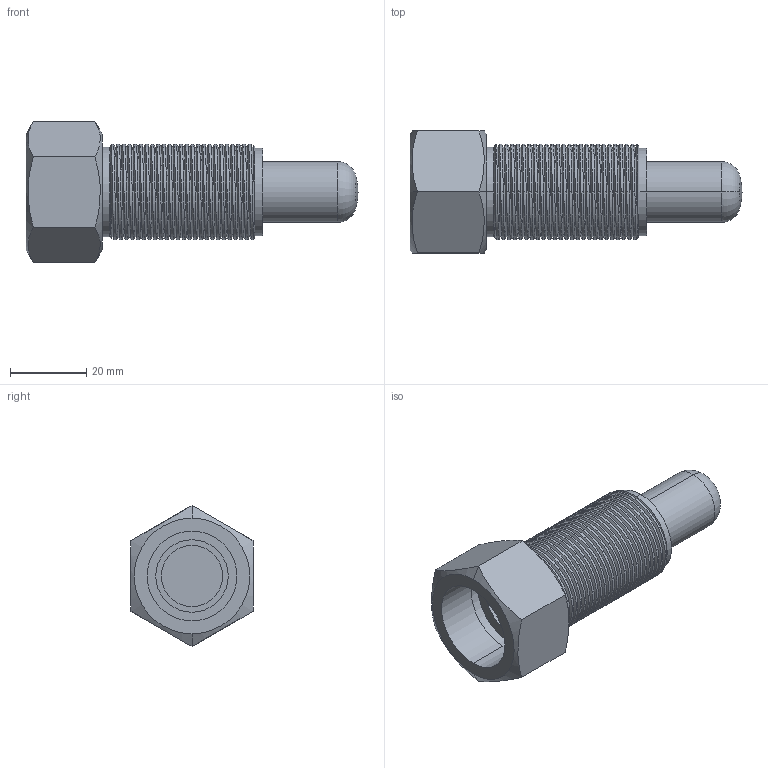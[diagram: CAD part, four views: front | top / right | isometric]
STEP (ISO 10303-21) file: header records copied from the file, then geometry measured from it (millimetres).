
FILE_DESCRIPTION (( '' ), '1' );
FILE_NAME ('SLA25-25.STEP', '', ( '' ), ( '' ), '', '', '' );
FILE_SCHEMA (( 'CONFIG_CONTROL_DESIGN' ));
Length unit declared in the file: millimetre
Products named in the file (3): SL2525(ROD); KSL0250025-0020(KSL2525); SL2525(BODY)
Assembly tree (2 placements, depth 2):
  KSL0250025-0020(KSL2525)
    SL2525(BODY)
    SL2525(ROD)
Bounding box: 87 x 32 x 36.95 mm (x, y, z)
Volume: 28153 mm3; surface area: 15128 mm2
Topology: 2 solids, 2 shells, 104 faces, 261 edges, 169 vertices
Faces by surface type: cylinder 71, plane 17, cone 10, bspline 2, torus 2, sphere 2
Entity records: 6293 total; most frequent: CARTESIAN_POINT 3789, ORIENTED_EDGE 522, DIRECTION 414, EDGE_CURVE 261, VERTEX_POINT 169, AXIS2_PLACEMENT_3D 165, EDGE_LOOP 114, ADVANCED_FACE 104
